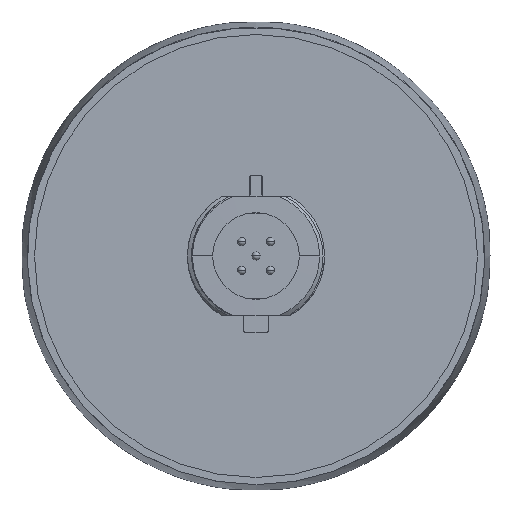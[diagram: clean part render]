
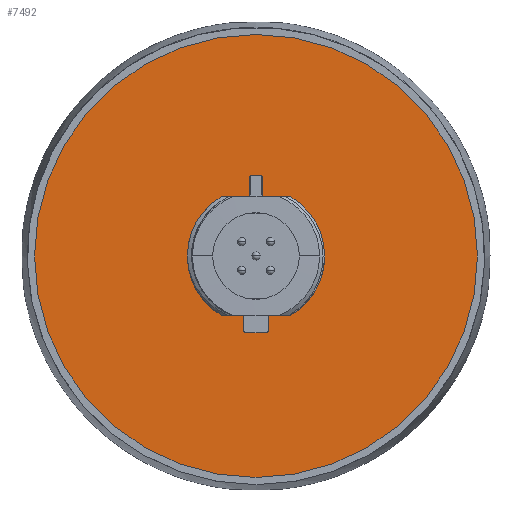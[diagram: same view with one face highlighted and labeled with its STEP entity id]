
A CAD part, front view. The second image highlights one B-rep face of the part: STEP entity #7492.
In plain terms, the highlighted planar face has unit normal (0, -1, 0).
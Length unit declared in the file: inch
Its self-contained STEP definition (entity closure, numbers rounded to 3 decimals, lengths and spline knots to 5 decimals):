
#21=DIRECTION('',(1.,0.,-0.017));
#22=VECTOR('',#21,0.12938);
#23=CARTESIAN_POINT('',(0.03943,-0.364,0.28931));
#24=LINE('',#23,#22);
#96=CARTESIAN_POINT('',(0.03943,-0.364,0.28931));
#97=CARTESIAN_POINT('',(0.03615,-0.364,0.28937));
#98=CARTESIAN_POINT('',(0.03206,-0.364,0.2919));
#99=CARTESIAN_POINT('',(0.0296,-0.364,0.29603));
#100=CARTESIAN_POINT('',(0.0296,-0.364,0.29931));
#106=DIRECTION('',(0.,0.,1.));
#107=VECTOR('',#106,0.08365);
#108=CARTESIAN_POINT('',(0.0296,-0.364,0.29931));
#109=LINE('',#108,#107);
#114=CARTESIAN_POINT('',(0.0196,-0.364,0.39296));
#115=CARTESIAN_POINT('',(0.02293,-0.364,0.39296));
#116=CARTESIAN_POINT('',(0.02707,-0.364,0.39043));
#117=CARTESIAN_POINT('',(0.0296,-0.364,0.38629));
#118=CARTESIAN_POINT('',(0.0296,-0.364,0.38296));
#128=DIRECTION('',(-1.,0.,0.));
#129=VECTOR('',#128,0.0392);
#130=CARTESIAN_POINT('',(0.0196,-0.364,0.39296));
#131=LINE('',#130,#129);
#176=DIRECTION('',(1.,0.,0.017));
#177=VECTOR('',#176,0.12938);
#178=CARTESIAN_POINT('',(-0.16879,-0.364,0.28705));
#179=LINE('',#178,#177);
#255=CARTESIAN_POINT('',(0.,-0.364,0.));
#256=DIRECTION('',(0.,1.,0.));
#257=DIRECTION('',(-0.507,0.,-0.862));
#258=AXIS2_PLACEMENT_3D('',#255,#256,#257);
#346=DIRECTION('',(-1.,0.,0.017));
#347=VECTOR('',#346,0.09938);
#348=CARTESIAN_POINT('',(-0.06943,-0.364,-0.28879));
#349=LINE('',#348,#347);
#2412=DIRECTION('',(-1.,0.,-0.017));
#2413=VECTOR('',#2412,0.09938);
#2414=CARTESIAN_POINT('',(0.16879,-0.364,-0.28705));
#2415=LINE('',#2414,#2413);
#2491=CARTESIAN_POINT('',(0.,-0.364,0.));
#2492=DIRECTION('',(0.,1.,0.));
#2493=DIRECTION('',(0.507,0.,0.862));
#2494=AXIS2_PLACEMENT_3D('',#2491,#2492,#2493);
#2500=CARTESIAN_POINT('',(0.,-0.364,0.));
#2501=DIRECTION('',(0.,1.,0.));
#2502=DIRECTION('',(1.,0.,0.));
#2503=AXIS2_PLACEMENT_3D('',#2500,#2501,#2502);
#2505=CARTESIAN_POINT('',(0.,-0.364,0.));
#2506=DIRECTION('',(0.,1.,0.));
#2507=DIRECTION('',(-1.,0.,0.));
#2508=AXIS2_PLACEMENT_3D('',#2505,#2506,#2507);
#2510=CARTESIAN_POINT('',(-0.0296,-0.364,0.38296));
#2511=CARTESIAN_POINT('',(-0.0296,-0.364,0.38629));
#2512=CARTESIAN_POINT('',(-0.02707,-0.364,0.39043));
#2513=CARTESIAN_POINT('',(-0.02293,-0.364,0.39296));
#2514=CARTESIAN_POINT('',(-0.0196,-0.364,0.39296));
#2524=DIRECTION('',(0.,0.,-1.));
#2525=VECTOR('',#2524,0.08365);
#2526=CARTESIAN_POINT('',(-0.0296,-0.364,0.38296));
#2527=LINE('',#2526,#2525);
#2528=CARTESIAN_POINT('',(-0.03943,-0.364,0.28931));
#2529=CARTESIAN_POINT('',(-0.03615,-0.364,0.28937));
#2530=CARTESIAN_POINT('',(-0.03206,-0.364,0.2919));
#2531=CARTESIAN_POINT('',(-0.0296,-0.364,0.29603));
#2532=CARTESIAN_POINT('',(-0.0296,-0.364,0.29931));
#2534=CARTESIAN_POINT('',(-0.06943,-0.364,-0.28879));
#2535=CARTESIAN_POINT('',(-0.06615,-0.364,-0.28885));
#2536=CARTESIAN_POINT('',(-0.06206,-0.364,-0.29138));
#2537=CARTESIAN_POINT('',(-0.0596,-0.364,-0.29551));
#2538=CARTESIAN_POINT('',(-0.0596,-0.364,-0.29879));
#2544=DIRECTION('',(0.,0.,-1.));
#2545=VECTOR('',#2544,0.06417);
#2546=CARTESIAN_POINT('',(-0.0596,-0.364,-0.29879));
#2547=LINE('',#2546,#2545);
#2552=CARTESIAN_POINT('',(-0.0496,-0.364,-0.37296));
#2553=CARTESIAN_POINT('',(-0.05293,-0.364,-0.37296));
#2554=CARTESIAN_POINT('',(-0.05707,-0.364,-0.37043));
#2555=CARTESIAN_POINT('',(-0.0596,-0.364,-0.36629));
#2556=CARTESIAN_POINT('',(-0.0596,-0.364,-0.36296));
#2562=DIRECTION('',(1.,0.,0.));
#2563=VECTOR('',#2562,0.0992);
#2564=CARTESIAN_POINT('',(-0.0496,-0.364,-0.37296));
#2565=LINE('',#2564,#2563);
#2570=CARTESIAN_POINT('',(0.0596,-0.364,-0.36296));
#2571=CARTESIAN_POINT('',(0.0596,-0.364,-0.36629));
#2572=CARTESIAN_POINT('',(0.05707,-0.364,-0.37043));
#2573=CARTESIAN_POINT('',(0.05293,-0.364,-0.37296));
#2574=CARTESIAN_POINT('',(0.0496,-0.364,-0.37296));
#2584=DIRECTION('',(0.,0.,1.));
#2585=VECTOR('',#2584,0.06417);
#2586=CARTESIAN_POINT('',(0.0596,-0.364,-0.36296));
#2587=LINE('',#2586,#2585);
#2632=CARTESIAN_POINT('',(0.06943,-0.364,-0.28879));
#2633=CARTESIAN_POINT('',(0.06615,-0.364,-0.28885));
#2634=CARTESIAN_POINT('',(0.06206,-0.364,-0.29138));
#2635=CARTESIAN_POINT('',(0.0596,-0.364,-0.29551));
#2636=CARTESIAN_POINT('',(0.0596,-0.364,-0.29879));
#3674=CARTESIAN_POINT('',(1.075,-0.364,0.));
#3675=CARTESIAN_POINT('',(-1.075,-0.364,0.));
#3676=VERTEX_POINT('',#3674);
#3677=VERTEX_POINT('',#3675);
#3716=CARTESIAN_POINT('',(0.0196,-0.364,0.39296));
#3717=VERTEX_POINT('',#3716);
#3718=CARTESIAN_POINT('',(-0.0196,-0.364,0.39296));
#3719=VERTEX_POINT('',#3718);
#3720=CARTESIAN_POINT('',(0.0296,-0.364,0.38296));
#3721=VERTEX_POINT('',#3720);
#3722=CARTESIAN_POINT('',(0.0296,-0.364,0.29931));
#3723=VERTEX_POINT('',#3722);
#3724=CARTESIAN_POINT('',(0.0596,-0.364,-0.36296));
#3725=VERTEX_POINT('',#3724);
#3726=CARTESIAN_POINT('',(0.0596,-0.364,-0.29879));
#3727=VERTEX_POINT('',#3726);
#3728=CARTESIAN_POINT('',(0.0496,-0.364,-0.37296));
#3729=VERTEX_POINT('',#3728);
#3730=CARTESIAN_POINT('',(-0.0496,-0.364,-0.37296));
#3731=VERTEX_POINT('',#3730);
#3732=CARTESIAN_POINT('',(-0.0596,-0.364,-0.36296));
#3733=VERTEX_POINT('',#3732);
#3734=CARTESIAN_POINT('',(-0.0596,-0.364,-0.29879));
#3735=VERTEX_POINT('',#3734);
#3736=CARTESIAN_POINT('',(-0.0296,-0.364,0.38296));
#3737=VERTEX_POINT('',#3736);
#3738=CARTESIAN_POINT('',(-0.0296,-0.364,0.29931));
#3739=VERTEX_POINT('',#3738);
#3740=CARTESIAN_POINT('',(0.03943,-0.364,0.28931));
#3741=VERTEX_POINT('',#3740);
#3742=CARTESIAN_POINT('',(0.16879,-0.364,0.28705));
#3743=VERTEX_POINT('',#3742);
#3744=CARTESIAN_POINT('',(-0.16879,-0.364,-0.28705));
#3745=VERTEX_POINT('',#3744);
#3746=CARTESIAN_POINT('',(-0.16879,-0.364,0.28705));
#3747=VERTEX_POINT('',#3746);
#3748=CARTESIAN_POINT('',(0.16879,-0.364,-0.28705));
#3749=VERTEX_POINT('',#3748);
#3750=CARTESIAN_POINT('',(-0.06943,-0.364,-0.28879));
#3751=VERTEX_POINT('',#3750);
#3752=CARTESIAN_POINT('',(0.06943,-0.364,-0.28879));
#3753=VERTEX_POINT('',#3752);
#3754=CARTESIAN_POINT('',(-0.03943,-0.364,0.28931));
#3755=VERTEX_POINT('',#3754);
#7449=CARTESIAN_POINT('',(0.,-0.364,0.));
#7450=DIRECTION('',(0.,1.,0.));
#7451=DIRECTION('',(1.,0.,0.));
#7452=AXIS2_PLACEMENT_3D('',#7449,#7450,#7451);
#7453=PLANE('',#7452);
#7455=ORIENTED_EDGE('',*,*,#7454,.T.);
#7457=ORIENTED_EDGE('',*,*,#7456,.T.);
#7458=EDGE_LOOP('',(#7455,#7457));
#7459=FACE_OUTER_BOUND('',#7458,.F.);
#7460=ORIENTED_EDGE('',*,*,#4060,.T.);
#7462=ORIENTED_EDGE('',*,*,#7461,.F.);
#7464=ORIENTED_EDGE('',*,*,#7463,.T.);
#7466=ORIENTED_EDGE('',*,*,#7465,.F.);
#7467=ORIENTED_EDGE('',*,*,#4093,.F.);
#7468=ORIENTED_EDGE('',*,*,#4195,.F.);
#7469=ORIENTED_EDGE('',*,*,#4301,.F.);
#7471=ORIENTED_EDGE('',*,*,#7470,.T.);
#7473=ORIENTED_EDGE('',*,*,#7472,.T.);
#7475=ORIENTED_EDGE('',*,*,#7474,.F.);
#7477=ORIENTED_EDGE('',*,*,#7476,.T.);
#7479=ORIENTED_EDGE('',*,*,#7478,.F.);
#7481=ORIENTED_EDGE('',*,*,#7480,.T.);
#7483=ORIENTED_EDGE('',*,*,#7482,.F.);
#7484=ORIENTED_EDGE('',*,*,#7372,.F.);
#7485=ORIENTED_EDGE('',*,*,#7439,.F.);
#7486=ORIENTED_EDGE('',*,*,#3921,.F.);
#7487=ORIENTED_EDGE('',*,*,#4012,.T.);
#7488=ORIENTED_EDGE('',*,*,#4027,.T.);
#7489=ORIENTED_EDGE('',*,*,#4042,.F.);
#7490=EDGE_LOOP('',(#7460,#7462,#7464,#7466,#7467,#7468,#7469,#7471,#7473,#7475,
#7477,#7479,#7481,#7483,#7484,#7485,#7486,#7487,#7488,#7489));
#7491=FACE_BOUND('',#7490,.F.);
#7492=ADVANCED_FACE('',(#7459,#7491),#7453,.F.);
#101=B_SPLINE_CURVE_WITH_KNOTS('',3,(#96,#97,#98,#99,#100),.UNSPECIFIED.,.F.,
.F.,(4,1,4),(0.,0.5,1.),.UNSPECIFIED.);
#119=B_SPLINE_CURVE_WITH_KNOTS('',3,(#114,#115,#116,#117,#118),.UNSPECIFIED.,
.F.,.F.,(4,1,4),(0.,0.5,1.),.UNSPECIFIED.);
#259=CIRCLE('',#258,0.333);
#2495=CIRCLE('',#2494,0.333);
#2504=CIRCLE('',#2503,1.075);
#2509=CIRCLE('',#2508,1.075);
#2515=B_SPLINE_CURVE_WITH_KNOTS('',3,(#2510,#2511,#2512,#2513,#2514),
.UNSPECIFIED.,.F.,.F.,(4,1,4),(0.,0.5,1.),.UNSPECIFIED.);
#2533=B_SPLINE_CURVE_WITH_KNOTS('',3,(#2528,#2529,#2530,#2531,#2532),
.UNSPECIFIED.,.F.,.F.,(4,1,4),(0.,0.5,1.),.UNSPECIFIED.);
#2539=B_SPLINE_CURVE_WITH_KNOTS('',3,(#2534,#2535,#2536,#2537,#2538),
.UNSPECIFIED.,.F.,.F.,(4,1,4),(0.,0.5,1.),.UNSPECIFIED.);
#2557=B_SPLINE_CURVE_WITH_KNOTS('',3,(#2552,#2553,#2554,#2555,#2556),
.UNSPECIFIED.,.F.,.F.,(4,1,4),(0.,0.5,1.),.UNSPECIFIED.);
#2575=B_SPLINE_CURVE_WITH_KNOTS('',3,(#2570,#2571,#2572,#2573,#2574),
.UNSPECIFIED.,.F.,.F.,(4,1,4),(0.,0.5,1.),.UNSPECIFIED.);
#2637=B_SPLINE_CURVE_WITH_KNOTS('',3,(#2632,#2633,#2634,#2635,#2636),
.UNSPECIFIED.,.F.,.F.,(4,1,4),(0.,0.5,1.),.UNSPECIFIED.);
#3921=EDGE_CURVE('',#3741,#3743,#24,.T.);
#4012=EDGE_CURVE('',#3741,#3723,#101,.T.);
#4027=EDGE_CURVE('',#3723,#3721,#109,.T.);
#4042=EDGE_CURVE('',#3717,#3721,#119,.T.);
#4060=EDGE_CURVE('',#3717,#3719,#131,.T.);
#4093=EDGE_CURVE('',#3747,#3755,#179,.T.);
#4195=EDGE_CURVE('',#3745,#3747,#259,.T.);
#4301=EDGE_CURVE('',#3751,#3745,#349,.T.);
#7372=EDGE_CURVE('',#3749,#3753,#2415,.T.);
#7439=EDGE_CURVE('',#3743,#3749,#2495,.T.);
#7454=EDGE_CURVE('',#3676,#3677,#2504,.T.);
#7456=EDGE_CURVE('',#3677,#3676,#2509,.T.);
#7461=EDGE_CURVE('',#3737,#3719,#2515,.T.);
#7463=EDGE_CURVE('',#3737,#3739,#2527,.T.);
#7465=EDGE_CURVE('',#3755,#3739,#2533,.T.);
#7470=EDGE_CURVE('',#3751,#3735,#2539,.T.);
#7472=EDGE_CURVE('',#3735,#3733,#2547,.T.);
#7474=EDGE_CURVE('',#3731,#3733,#2557,.T.);
#7476=EDGE_CURVE('',#3731,#3729,#2565,.T.);
#7478=EDGE_CURVE('',#3725,#3729,#2575,.T.);
#7480=EDGE_CURVE('',#3725,#3727,#2587,.T.);
#7482=EDGE_CURVE('',#3753,#3727,#2637,.T.);
